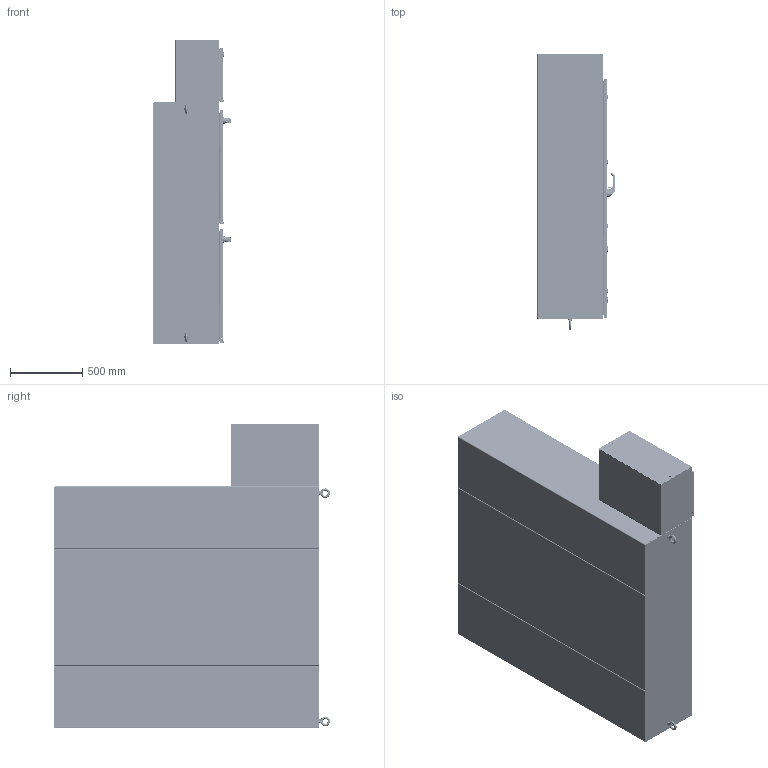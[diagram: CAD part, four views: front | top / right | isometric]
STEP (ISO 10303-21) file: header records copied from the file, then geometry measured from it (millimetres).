
FILE_DESCRIPTION((''),'2;1');
FILE_NAME('MODEL-430_ASM','2024-09-30T14:49:33',('richards'),('SAGINAW CONTROL & ENGINEERING'),'CREO PARAMETRIC BY PTC INC, 2021284','CREO PARAMETRIC BY PTC INC, 2021284','');
FILE_SCHEMA(('AUTOMOTIVE_DESIGN { 1 0 10303 214 1 1 1 1 }'));
Length unit declared in the file: inch
Products named in the file (124): MODEL-430-TP; MODEL-430-R-SD; MODEL-430-L-SD; MODEL-430-BTM; MODEL-430-BCK; MODEL-430-M-DR; 100837; 111267; 100882; 100957_SCREW_MTG; 100957_PADLOCK_CATCH; 100957_SCREW_LARGE; 100957_INSERT_SHAFT; 100957_INSERT_PH; 100957_GASKET; 100957_O-RING; 100957_BASE; 100957_SPRING; 100957_HANDLE; 100957_CAM_SHAFT; 100957_HANDLE_ASM; 100957_CAM_ADAPTER; 100957_EARTH_NUT; 100957_FLANGE_NUT; 100957_CAM_NUT; 100957_ASM; 102237; 100030; 102237_ASM; MODEL-430-ROD-UPR-MD; 128146; 128145; 128144; 102482; MODEL-430-ROD-UPR-MD_ASM; 128143; 112504; MODEL-430-ROD-LWR-MD; MODEL-430-ROD-LWR-MD_ASM; MODEL-430-PR-GSKT-M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
Assembly tree (299 placements, depth 5):
  MODEL-430_ASM
    MODEL-430-TP
    MODEL-430-R-SD
    MODEL-430-L-SD
    MODEL-430-BTM
    MODEL-430-BCK
    MODEL-430-M-DOOR-ASSY_ASM
      MODEL-430-M-DR
      100837  x7
      111267
      100882  x12
      100957_ASM
        100957_SCREW_MTG
        100957_PADLOCK_CATCH
        100957_SCREW_LARGE  x2
        100957_INSERT_SHAFT
        100957_INSERT_PH
        100957_GASKET
        100957_O-RING
        100957_BASE
        100957_SPRING
        100957_HANDLE_ASM
          100957_HANDLE
          100957_CAM_SHAFT
        100957_CAM_ADAPTER
        100957_EARTH_NUT
        100957_FLANGE_NUT
        100957_CAM_NUT
      102237_ASM
        102237
        100030  x2
      MODEL-430-ROD-UPR-MD_ASM
        MODEL-430-ROD-UPR-MD
        128146
        128145
        128144
        102482  x2
      128143  x2
      112504  x2
      MODEL-430-ROD-LWR-MD_ASM
        MODEL-430-ROD-LWR-MD
        128146
        128145
        128144
        102482  x2
      MODEL-430-PR-GSKT-M
      128257_ASM  x4
        128257
      126393  x4
      102483  x4
      101369_ASM  x4
        101369
        101369-STUD
      101221  x4
    MODEL-430-S-DOOR-ASSY_ASM
      MODEL-430-S-DR
      100837  x3
      100957_ASM
        100957_SCREW_MTG
        100957_PADLOCK_CATCH
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Bounding box: 535.27 x 1903.6 x 2101.85 mm (x, y, z)
Volume: 45195642.7 mm3; surface area: 30397448.4 mm2
Topology: 337 solids, 337 shells, 30654 faces, 77864 edges, 48006 vertices
Faces by surface type: plane 10636, cylinder 7968, bspline 6925, torus 2419, cone 1453, sphere 928, extrusion 325
Entity records: 667093 total; most frequent: CARTESIAN_POINT 285394, ORIENTED_EDGE 57828, DIRECTION 54954, PRESENTATION_STYLE_ASSIGNMENT 29407, STYLED_ITEM 29022, CURVE_STYLE 28914, EDGE_CURVE 28914, AXIS2_PLACEMENT_3D 20323
